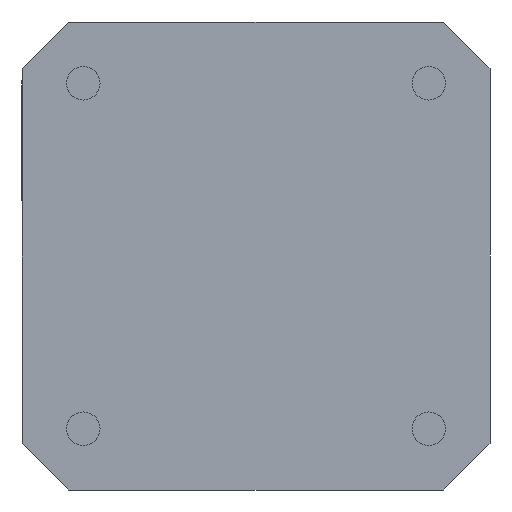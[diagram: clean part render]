
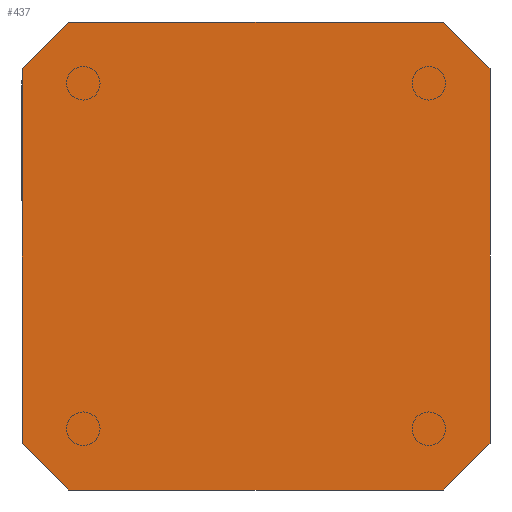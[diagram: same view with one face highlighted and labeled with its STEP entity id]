
A CAD part, front view. The second image highlights one B-rep face of the part: STEP entity #437.
In plain terms, the highlighted planar face has unit normal (0, -1, 0).
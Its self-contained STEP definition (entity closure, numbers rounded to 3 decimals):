
#5 = LINE ( 'NONE', #1170, #171 ) ;
#160 = EDGE_CURVE ( 'NONE', #495, #1308, #871, .T. ) ;
#171 = VECTOR ( 'NONE', #940, 1000. ) ;
#178 = ORIENTED_EDGE ( 'NONE', *, *, #515, .T. ) ;
#203 = EDGE_CURVE ( 'NONE', #765, #801, #5, .T. ) ;
#254 = VECTOR ( 'NONE', #909, 1000. ) ;
#270 = EDGE_LOOP ( 'NONE', ( #178, #1311, #1063, #1400, #920, #369, #1075, #700 ) ) ;
#284 = PLANE ( 'NONE',  #848 ) ;
#289 = VECTOR ( 'NONE', #991, 1000. ) ;
#310 = VECTOR ( 'NONE', #1315, 1000. ) ;
#314 = LINE ( 'NONE', #1228, #254 ) ;
#325 = CARTESIAN_POINT ( 'NONE',  ( 37.8, -37., 0. ) ) ;
#335 = VERTEX_POINT ( 'NONE', #572 ) ;
#359 = DIRECTION ( 'NONE',  ( 0., -1., 0. ) ) ;
#367 = LINE ( 'NONE', #732, #658 ) ;
#369 = ORIENTED_EDGE ( 'NONE', *, *, #1219, .F. ) ;
#384 = VERTEX_POINT ( 'NONE', #809 ) ;
#392 = DIRECTION ( 'NONE',  ( 0., 0., 1. ) ) ;
#423 = EDGE_CURVE ( 'NONE', #335, #384, #314, .T. ) ;
#437 = ADVANCED_FACE ( 'NONE', ( #1385 ), #284, .T. ) ;
#444 = CARTESIAN_POINT ( 'NONE',  ( 0., -37., -37.8 ) ) ;
#468 = CARTESIAN_POINT ( 'NONE',  ( 0., -37., -4.2 ) ) ;
#472 = CARTESIAN_POINT ( 'NONE',  ( 42., -37., -37.8 ) ) ;
#495 = VERTEX_POINT ( 'NONE', #1317 ) ;
#515 = EDGE_CURVE ( 'NONE', #765, #1308, #367, .T. ) ;
#572 = CARTESIAN_POINT ( 'NONE',  ( 4.2, -37., 0. ) ) ;
#587 = LINE ( 'NONE', #1045, #759 ) ;
#618 = CARTESIAN_POINT ( 'NONE',  ( 0., -37., 0. ) ) ;
#658 = VECTOR ( 'NONE', #1098, 1000. ) ;
#700 = ORIENTED_EDGE ( 'NONE', *, *, #203, .F. ) ;
#732 = CARTESIAN_POINT ( 'NONE',  ( 37.8, -37., -42. ) ) ;
#759 = VECTOR ( 'NONE', #392, 1000. ) ;
#765 = VERTEX_POINT ( 'NONE', #1137 ) ;
#801 = VERTEX_POINT ( 'NONE', #827 ) ;
#809 = CARTESIAN_POINT ( 'NONE',  ( 37.8, -37., 0. ) ) ;
#811 = LINE ( 'NONE', #468, #1084 ) ;
#815 = CARTESIAN_POINT ( 'NONE',  ( 0., -37., -4.2 ) ) ;
#827 = CARTESIAN_POINT ( 'NONE',  ( 4.2, -37., -42. ) ) ;
#848 = AXIS2_PLACEMENT_3D ( 'NONE', #618, #359, #1119 ) ;
#871 = LINE ( 'NONE', #1210, #289 ) ;
#895 = EDGE_CURVE ( 'NONE', #1025, #801, #1023, .T. ) ;
#909 = DIRECTION ( 'NONE',  ( 1., 0., 0. ) ) ;
#920 = ORIENTED_EDGE ( 'NONE', *, *, #1152, .T. ) ;
#925 = LINE ( 'NONE', #325, #310 ) ;
#940 = DIRECTION ( 'NONE',  ( -1., 0., 0. ) ) ;
#955 = CARTESIAN_POINT ( 'NONE',  ( 4.2, -37., -42. ) ) ;
#979 = EDGE_CURVE ( 'NONE', #495, #384, #925, .T. ) ;
#991 = DIRECTION ( 'NONE',  ( 0., 0., -1. ) ) ;
#1023 = LINE ( 'NONE', #955, #1341 ) ;
#1025 = VERTEX_POINT ( 'NONE', #444 ) ;
#1045 = CARTESIAN_POINT ( 'NONE',  ( 0., -37., 0. ) ) ;
#1063 = ORIENTED_EDGE ( 'NONE', *, *, #979, .T. ) ;
#1067 = DIRECTION ( 'NONE',  ( 0.707, 0., -0.707 ) ) ;
#1075 = ORIENTED_EDGE ( 'NONE', *, *, #895, .T. ) ;
#1084 = VECTOR ( 'NONE', #1339, 1000. ) ;
#1098 = DIRECTION ( 'NONE',  ( 0.707, 0., 0.707 ) ) ;
#1119 = DIRECTION ( 'NONE',  ( 0., 0., -1. ) ) ;
#1137 = CARTESIAN_POINT ( 'NONE',  ( 37.8, -37., -42. ) ) ;
#1152 = EDGE_CURVE ( 'NONE', #335, #1287, #811, .T. ) ;
#1170 = CARTESIAN_POINT ( 'NONE',  ( 0., -37., -42. ) ) ;
#1210 = CARTESIAN_POINT ( 'NONE',  ( 42., -37., 0. ) ) ;
#1219 = EDGE_CURVE ( 'NONE', #1025, #1287, #587, .T. ) ;
#1228 = CARTESIAN_POINT ( 'NONE',  ( 0., -37., 0. ) ) ;
#1287 = VERTEX_POINT ( 'NONE', #815 ) ;
#1308 = VERTEX_POINT ( 'NONE', #472 ) ;
#1311 = ORIENTED_EDGE ( 'NONE', *, *, #160, .F. ) ;
#1315 = DIRECTION ( 'NONE',  ( -0.707, 0., 0.707 ) ) ;
#1317 = CARTESIAN_POINT ( 'NONE',  ( 42., -37., -4.2 ) ) ;
#1339 = DIRECTION ( 'NONE',  ( -0.707, 0., -0.707 ) ) ;
#1341 = VECTOR ( 'NONE', #1067, 1000. ) ;
#1385 = FACE_OUTER_BOUND ( 'NONE', #270, .T. ) ;
#1400 = ORIENTED_EDGE ( 'NONE', *, *, #423, .F. ) ;
